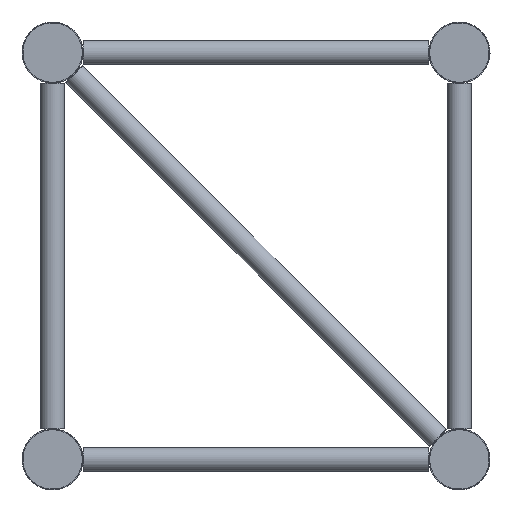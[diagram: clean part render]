
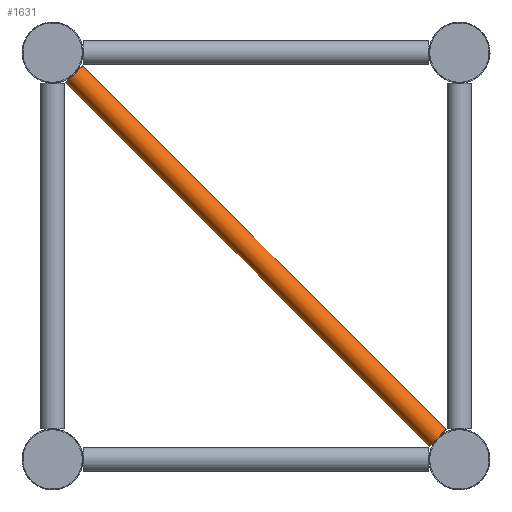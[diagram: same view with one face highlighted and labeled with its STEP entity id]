
A CAD part, left-side view. The second image highlights one B-rep face of the part: STEP entity #1631.
In plain terms, the highlighted cylindrical face has radius 10 mm (diameter 20 mm), a full revolution.
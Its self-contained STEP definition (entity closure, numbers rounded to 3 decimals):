
#153=FACE_BOUND('',#428,.T.);
#255=CYLINDRICAL_SURFACE('',#1768,10.);
#296=FACE_OUTER_BOUND('',#427,.T.);
#427=EDGE_LOOP('',(#1023));
#428=EDGE_LOOP('',(#1024));
#656=CIRCLE('',#1767,10.);
#657=CIRCLE('',#1769,10.);
#724=VERTEX_POINT('',#2494);
#725=VERTEX_POINT('',#2497);
#856=EDGE_CURVE('',#724,#724,#656,.T.);
#857=EDGE_CURVE('',#725,#725,#657,.T.);
#1023=ORIENTED_EDGE('',*,*,#856,.T.);
#1024=ORIENTED_EDGE('',*,*,#857,.T.);
#1631=ADVANCED_FACE('',(#296,#153),#255,.T.);
#1767=AXIS2_PLACEMENT_3D('',#2495,#2005,#2006);
#1768=AXIS2_PLACEMENT_3D('',#2496,#2007,#2008);
#1769=AXIS2_PLACEMENT_3D('',#2498,#2009,#2010);
#2005=DIRECTION('center_axis',(0.,0.707,
0.707));
#2006=DIRECTION('ref_axis',(0.,0.707,-0.707));
#2007=DIRECTION('center_axis',(0.,0.707,
0.707));
#2008=DIRECTION('ref_axis',(0.,0.707,-0.707));
#2009=DIRECTION('center_axis',(0.,-0.707,
-0.707));
#2010=DIRECTION('ref_axis',(0.,0.707,-0.707));
#2494=CARTESIAN_POINT('',(60.,10.967,-313.891));
#2495=CARTESIAN_POINT('Origin',(60.,18.038,-320.962));
#2496=CARTESIAN_POINT('Origin',(60.,169.5,-169.5));
#2497=CARTESIAN_POINT('',(60.,313.891,-10.967));
#2498=CARTESIAN_POINT('Origin',(60.,320.962,-18.038));
